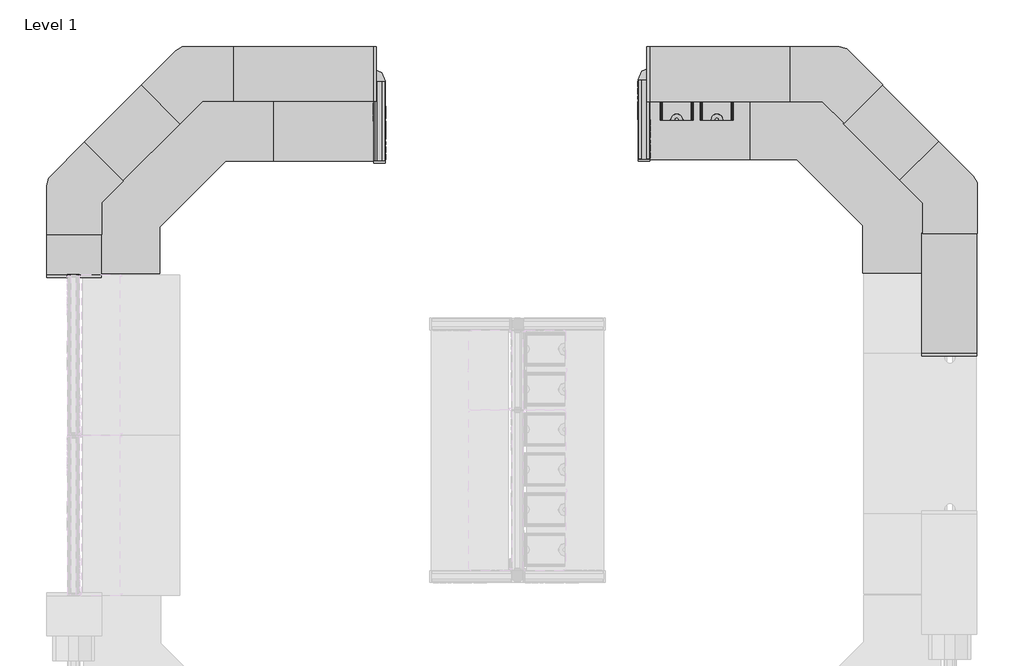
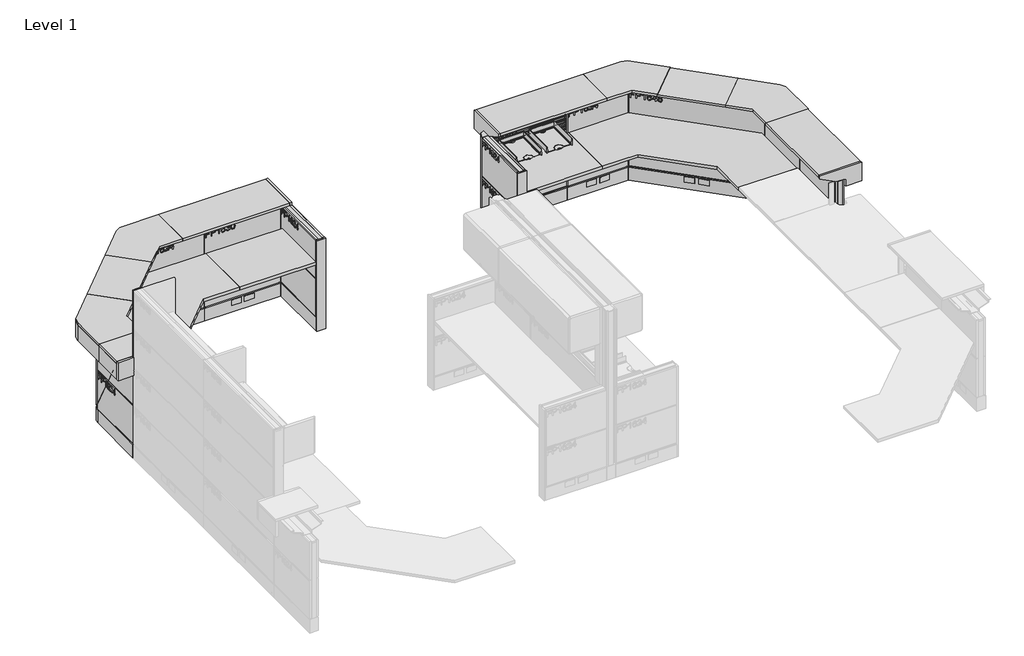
# One storey, part 3 of 3: 115 furniture elements.
"""IFC4 building model written with IfcOpenShell, lengths in millimetres."""

from ifc_helpers import new_model, si_unit, origin, place, context, project, spatial, transform, mapped, element, save
from components import furniture_050a35a8, furniture_f6e7f18d, furniture_7324295f, furniture_a86162da, furniture_dabdfb29, furniture_df6beef7, furniture_9c7ec0bd, furniture_8828cb60, furniture_d029c18f, furniture_0245ad47, furniture_adfb5ce8, furniture_f9b3eec1, furniture_44389360, furniture_d1243616, furniture_9dcc6860, furniture_a09f8145, furniture_81fe7897, furniture_8bbf410e, furniture_e496f4a3, furniture_2b4b025d, furniture_bb47e685, furniture_82e04d0f, furniture_bfd90adf, furniture_135_deg_68790faa, furniture_135_deg_corner_e0015eda, furniture_24d_left_781ecdd2, furniture_24d_right_b8f5cfed, furniture_30d_right_d35b987e, furniture_68980961, furniture_c74ffdfc, end_cap_54c5994d, lam_24d_30w_89995873, left_d4cbb337, left_ebece1d7

model = new_model("IFC4")

# Units and contexts
model_context = context("Model", 3, world=origin())
ifc_project = project(units=[si_unit("LENGTHUNIT", "METRE", prefix="MILLI")], contexts=[model_context])

# Site, building, storey
site = spatial("IfcSite", under=ifc_project)
building = spatial("IfcBuilding", under=site)
storey = spatial("IfcBuildingStorey", under=building, Name="Level 1", Elevation=0.0)

# Furniture
placement = place(None, origin())
furniture_shape = furniture_050a35a8(model_context)
element("IfcFurniture", 1, ObjectType="HermanMiller_Ethospace_EWS73_F_Sq-Edge135WorkSurfaceDouble_FrameAttached : Ptd 24D 48W", at=placement, inside=storey, context=model_context, shape_type="MappedRepresentation", body=[
    mapped(furniture_shape, transform((889.1319408, 5217.8901948, 0.0), x_axis=(0.0, 1.0, 0.0), y_axis=(-1.0, 0.0, 0.0), z_axis=(0.0, 0.0, 1.0))),
])
element("IfcFurniture", 2, ObjectType="HermanMiller_Ethospace_EWS73_F_Sq-Edge135WorkSurfaceDouble_FrameAttached : Ptd 24D 48W", at=placement, inside=storey, context=model_context, shape_type="MappedRepresentation", body=[
    mapped(furniture_shape, transform((6392.2896748, 5008.5651792, 0.0), x_axis=(1.0, 0.0, 0.0), y_axis=(0.0, 1.0, 0.0), z_axis=(0.0, 0.0, 1.0))),
])
furniture_2_shape = furniture_f6e7f18d(model_context)
element("IfcFurniture", 3, ObjectType="HermanMiller_Ethospace_E2830_SqEdgeCounterTop : 7-1/2\"H x 16-3/8\"D x 42\"W", at=placement, inside=storey, context=model_context, shape_type="MappedRepresentation", body=[
    mapped(furniture_2_shape, transform((5114.96056, 5685.13976, 0.0), x_axis=(1.0, 0.0, 0.0), y_axis=(0.0, 1.0, 0.0), z_axis=(0.0, 0.0, 1.0))),
])
element("IfcFurniture", 4, ObjectType="HermanMiller_Ethospace_E2830_SqEdgeCounterTop : 7-1/2\"H x 16-3/8\"D x 42\"W", at=placement, inside=storey, context=model_context, shape_type="MappedRepresentation", body=[
    mapped(furniture_2_shape, transform((1951.13402, 5687.76358, 0.0), x_axis=(1.0, 0.0, 0.0), y_axis=(0.0, 1.0, 0.0), z_axis=(0.0, 0.0, 1.0))),
])
furniture_3_shape = furniture_7324295f(model_context)
element("IfcFurniture", 5, ObjectType="HermanMiller_Ethospace_E2830_SqEdgeCounterTop : 7-1/2\"H x 16-3/8\"D x 36\"W", at=placement, inside=storey, context=model_context, shape_type="MappedRepresentation", body=[
    mapped(furniture_3_shape, transform((6854.95708, 4021.3534, 0.0), x_axis=(0.0, -1.0, 0.0), y_axis=(1.0, 0.0, 0.0), z_axis=(0.0, 0.0, 1.0))),
])
furniture_4_shape = furniture_a86162da(model_context)
element("IfcFurniture", 6, ObjectType="HermanMiller_Ethospace_E2830_SqEdgeCounterTop : 7-1/2\"H x 16-3/8\"D x 24\"W", at=placement, inside=storey, context=model_context, shape_type="MappedRepresentation", body=[
    mapped(furniture_4_shape, transform((6412.2772944, 5242.4685406, 0.0), x_axis=(0.7071067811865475, -0.7071067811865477, 0.0), y_axis=(0.7071067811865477, 0.7071067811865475, 0.0), z_axis=(0.0, 0.0, 1.0))),
])
element("IfcFurniture", 7, ObjectType="HermanMiller_Ethospace_E2830_SqEdgeCounterTop : 7-1/2\"H x 16-3/8\"D x 24\"W", at=placement, inside=storey, context=model_context, shape_type="MappedRepresentation", body=[
    mapped(furniture_4_shape, transform((650.0266594, 5238.5001144, 0.0), x_axis=(0.7071067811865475, 0.7071067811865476, 0.0), y_axis=(-0.7071067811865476, 0.7071067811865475, 0.0), z_axis=(0.0, 0.0, 1.0))),
])
furniture_5_shape = furniture_dabdfb29(model_context)
element("IfcFurniture", 8, ObjectType="HermanMiller_Ethospace_E2830_SqEdgeCounterTop : 7-1/2\"H x 16-3/8\"D x 12\"W", at=placement, inside=storey, context=model_context, shape_type="MappedRepresentation", body=[
    mapped(furniture_5_shape, transform((209.32648, 4313.97664, 0.0), x_axis=(0.0, 1.0, 0.0), y_axis=(-1.0, 0.0, 0.0), z_axis=(0.0, 0.0, 1.0))),
])
furniture_6_shape = furniture_df6beef7(model_context)
element("IfcFurniture", 9, ObjectType="HermanMiller_Ethospace_E2827_CounterTopSupport : 48\"W W/Light", at=placement, inside=storey, context=model_context, shape_type="MappedRepresentation", body=[
    mapped(furniture_6_shape, transform((6406.0698013, 5236.8563536, 0.0), x_axis=(0.7071067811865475, -0.7071067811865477, 0.0), y_axis=(0.7071067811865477, 0.7071067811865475, 0.0), z_axis=(0.0, 0.0, 1.0))),
])
element("IfcFurniture", 10, ObjectType="HermanMiller_Ethospace_E2827_CounterTopSupport : 48\"W W/Light", at=placement, inside=storey, context=model_context, shape_type="MappedRepresentation", body=[
    mapped(furniture_6_shape, transform((659.4310664, 5224.0833413, 0.0), x_axis=(0.7071067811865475, 0.7071067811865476, 0.0), y_axis=(-0.7071067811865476, 0.7071067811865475, 0.0), z_axis=(0.0, 0.0, 1.0))),
])
furniture_7_shape = furniture_9c7ec0bd(model_context)
element("IfcFurniture", 11, ObjectType="HermanMiller_Ethospace_E2827_CounterTopSupport : 30\"W W/Light", at=placement, inside=storey, context=model_context, shape_type="MappedRepresentation", body=[
    mapped(furniture_7_shape, transform((4962.56056, 5677.20226, 0.0), x_axis=(1.0, 0.0, 0.0), y_axis=(0.0, 1.0, 0.0), z_axis=(0.0, 0.0, 1.0))),
])
element("IfcFurniture", 12, ObjectType="HermanMiller_Ethospace_E2827_CounterTopSupport : 30\"W W/Light", at=placement, inside=storey, context=model_context, shape_type="MappedRepresentation", body=[
    mapped(furniture_7_shape, transform((2103.53402, 5665.03058, 0.0), x_axis=(1.0, 0.0, 0.0), y_axis=(0.0, 1.0, 0.0), z_axis=(0.0, 0.0, 1.0))),
])
furniture_8_shape = furniture_8828cb60(model_context)
element("IfcFurniture", 13, ObjectType="HermanMiller_Ethospace_E2827_CounterTopSupport : 24\"W W/Light", at=placement, inside=storey, context=model_context, shape_type="MappedRepresentation", body=[
    mapped(furniture_8_shape, transform((6847.0145, 3868.82132, 0.0), x_axis=(0.0, -1.0, 0.0), y_axis=(1.0, 0.0, 0.0), z_axis=(0.0, 0.0, 1.0))),
])
element("IfcFurniture", 14, ObjectType="HermanMiller_Ethospace_E2827_CounterTopSupport : 24\"W W/Light", at=placement, inside=storey, context=model_context, shape_type="MappedRepresentation", body=[
    mapped(furniture_8_shape, transform((6847.01958, 4478.5534, 0.0), x_axis=(0.0, -1.0, 0.0), y_axis=(1.0, 0.0, 0.0), z_axis=(0.0, 0.0, 1.0))),
])
element("IfcFurniture", 15, ObjectType="HermanMiller_Ethospace_E2827_CounterTopSupport : 24\"W W/Light", at=placement, inside=storey, context=model_context, shape_type="MappedRepresentation", body=[
    mapped(furniture_8_shape, transform((5648.36056, 5677.2175, 0.0), x_axis=(1.0, 0.0, 0.0), y_axis=(0.0, 1.0, 0.0), z_axis=(0.0, 0.0, 1.0))),
])
element("IfcFurniture", 16, ObjectType="HermanMiller_Ethospace_E2827_CounterTopSupport : 24\"W W/Light", at=placement, inside=storey, context=model_context, shape_type="MappedRepresentation", body=[
    mapped(furniture_8_shape, transform((1417.73402, 5665.03058, 0.0), x_axis=(1.0, 0.0, 0.0), y_axis=(0.0, 1.0, 0.0), z_axis=(0.0, 0.0, 1.0))),
])
element("IfcFurniture", 17, ObjectType="HermanMiller_Ethospace_E2827_CounterTopSupport : 24\"W W/Light", at=placement, inside=storey, context=model_context, shape_type="MappedRepresentation", body=[
    mapped(furniture_8_shape, transform((219.08008, 4465.77974, 0.0), x_axis=(0.0, 1.0, 0.0), y_axis=(-1.0, 0.0, 0.0), z_axis=(0.0, 0.0, 1.0))),
])
furniture_9_shape = furniture_d029c18f(model_context)
element("IfcFurniture", 18, ObjectType="HermanMiller_Ethospace_E1425_RailTile : 08\"H x 30\"W", at=placement, inside=storey, context=model_context, shape_type="MappedRepresentation", body=[
    mapped(furniture_9_shape, transform((4962.56056, 5667.68234, 0.0), x_axis=(1.0, 0.0, 0.0), y_axis=(0.0, 1.0, 0.0), z_axis=(0.0, 0.0, 1.0))),
])
furniture_10_shape = furniture_0245ad47(model_context)
element("IfcFurniture", 19, ObjectType="HermanMiller_Ethospace_E1420_FaceTile : Ptd 16\"H x 48\"W", at=placement, inside=storey, context=model_context, shape_type="MappedRepresentation", body=[
    mapped(furniture_10_shape, transform((6438.0944143, 5268.285362, 0.0), x_axis=(-0.7071067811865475, 0.7071067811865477, 0.0), y_axis=(-0.7071067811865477, -0.7071067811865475, 0.0), z_axis=(0.0, 0.0, 1.0))),
])
element("IfcFurniture", 20, ObjectType="HermanMiller_Ethospace_E1420_FaceTile : Ptd 16\"H x 48\"W", at=placement, inside=storey, context=model_context, shape_type="MappedRepresentation", body=[
    mapped(furniture_10_shape, transform((6394.8771257, 5225.069318, 0.0), x_axis=(0.7071067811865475, -0.7071067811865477, 0.0), y_axis=(0.7071067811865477, 0.7071067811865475, 0.0), z_axis=(0.0, 0.0, 1.0))),
])
element("IfcFurniture", 21, ObjectType="HermanMiller_Ethospace_E1420_FaceTile : Ptd 16\"H x 48\"W", at=placement, inside=storey, context=model_context, shape_type="MappedRepresentation", body=[
    mapped(furniture_10_shape, transform((627.999518, 5256.1104943, 0.0), x_axis=(-0.7071067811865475, -0.7071067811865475, 0.0), y_axis=(0.7071067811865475, -0.7071067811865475, 0.0), z_axis=(0.0, 0.0, 1.0))),
])
element("IfcFurniture", 22, ObjectType="HermanMiller_Ethospace_E1420_FaceTile : Ptd 16\"H x 48\"W", at=placement, inside=storey, context=model_context, shape_type="MappedRepresentation", body=[
    mapped(furniture_10_shape, transform((671.218102, 5212.8932057, 0.0), x_axis=(0.7071067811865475, 0.7071067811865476, 0.0), y_axis=(-0.7071067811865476, 0.7071067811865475, 0.0), z_axis=(0.0, 0.0, 1.0))),
])
furniture_11_shape = furniture_adfb5ce8(model_context)
element("IfcFurniture", 23, ObjectType="HermanMiller_Ethospace_E1420_FaceTile : Ptd 16\"H x 48\"W", at=placement, inside=storey, context=model_context, shape_type="MappedRepresentation", body=[
    mapped(furniture_11_shape, transform((6394.8771257, 5225.069318, 0.0), x_axis=(0.7071067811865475, -0.7071067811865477, 0.0), y_axis=(0.7071067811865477, 0.7071067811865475, 0.0), z_axis=(0.0, 0.0, 1.0))),
])
element("IfcFurniture", 24, ObjectType="HermanMiller_Ethospace_E1420_FaceTile : Ptd 16\"H x 48\"W", at=placement, inside=storey, context=model_context, shape_type="MappedRepresentation", body=[
    mapped(furniture_11_shape, transform((6438.0944143, 5268.285362, 0.0), x_axis=(-0.7071067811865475, 0.7071067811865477, 0.0), y_axis=(-0.7071067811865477, -0.7071067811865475, 0.0), z_axis=(0.0, 0.0, 1.0))),
])
element("IfcFurniture", 25, ObjectType="HermanMiller_Ethospace_E1420_FaceTile : Ptd 16\"H x 48\"W", at=placement, inside=storey, context=model_context, shape_type="MappedRepresentation", body=[
    mapped(furniture_11_shape, transform((671.218102, 5212.8932057, 0.0), x_axis=(0.7071067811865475, 0.7071067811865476, 0.0), y_axis=(-0.7071067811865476, 0.7071067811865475, 0.0), z_axis=(0.0, 0.0, 1.0))),
])
element("IfcFurniture", 26, ObjectType="HermanMiller_Ethospace_E1420_FaceTile : Ptd 16\"H x 48\"W", at=placement, inside=storey, context=model_context, shape_type="MappedRepresentation", body=[
    mapped(furniture_11_shape, transform((627.999518, 5256.1104943, 0.0), x_axis=(-0.7071067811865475, -0.7071067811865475, 0.0), y_axis=(0.7071067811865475, -0.7071067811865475, 0.0), z_axis=(0.0, 0.0, 1.0))),
])
furniture_12_shape = furniture_f9b3eec1(model_context)
element("IfcFurniture", 27, ObjectType="HermanMiller_Ethospace_E1420_FaceTile : Ptd 16\"H x 30\"W", at=placement, inside=storey, context=model_context, shape_type="MappedRepresentation", body=[
    mapped(furniture_12_shape, transform((4962.56056, 5721.6573461, 0.0), x_axis=(-1.0, 0.0, 0.0), y_axis=(0.0, -1.0, 0.0), z_axis=(0.0, 0.0, 1.0))),
])
element("IfcFurniture", 28, ObjectType="HermanMiller_Ethospace_E1420_FaceTile : Ptd 16\"H x 30\"W", at=placement, inside=storey, context=model_context, shape_type="MappedRepresentation", body=[
    mapped(furniture_12_shape, transform((4962.56056, 5658.1573339, 0.0), x_axis=(1.0, 0.0, 0.0), y_axis=(0.0, 1.0, 0.0), z_axis=(0.0, 0.0, 1.0))),
])
element("IfcFurniture", 29, ObjectType="HermanMiller_Ethospace_E1420_FaceTile : Ptd 16\"H x 30\"W", at=placement, inside=storey, context=model_context, shape_type="MappedRepresentation", body=[
    mapped(furniture_12_shape, transform((2103.53402, 5709.4805861, 0.0), x_axis=(-1.0, 0.0, 0.0), y_axis=(0.0, -1.0, 0.0), z_axis=(0.0, 0.0, 1.0))),
])
element("IfcFurniture", 30, ObjectType="HermanMiller_Ethospace_E1420_FaceTile : Ptd 16\"H x 30\"W", at=placement, inside=storey, context=model_context, shape_type="MappedRepresentation", body=[
    mapped(furniture_12_shape, transform((2103.53402, 5645.9805739, 0.0), x_axis=(1.0, 0.0, 0.0), y_axis=(0.0, 1.0, 0.0), z_axis=(0.0, 0.0, 1.0))),
])
furniture_13_shape = furniture_44389360(model_context)
element("IfcFurniture", 31, ObjectType="HermanMiller_Ethospace_E1420_FaceTile : Ptd 16\"H x 30\"W", at=placement, inside=storey, context=model_context, shape_type="MappedRepresentation", body=[
    mapped(furniture_13_shape, transform((4962.56056, 5721.6573461, 0.0), x_axis=(-1.0, 0.0, 0.0), y_axis=(0.0, -1.0, 0.0), z_axis=(0.0, 0.0, 1.0))),
])
element("IfcFurniture", 32, ObjectType="HermanMiller_Ethospace_E1420_FaceTile : Ptd 16\"H x 30\"W", at=placement, inside=storey, context=model_context, shape_type="MappedRepresentation", body=[
    mapped(furniture_13_shape, transform((2103.53402, 5645.9805739, 0.0), x_axis=(1.0, 0.0, 0.0), y_axis=(0.0, 1.0, 0.0), z_axis=(0.0, 0.0, 1.0))),
])
element("IfcFurniture", 33, ObjectType="HermanMiller_Ethospace_E1420_FaceTile : Ptd 16\"H x 30\"W", at=placement, inside=storey, context=model_context, shape_type="MappedRepresentation", body=[
    mapped(furniture_13_shape, transform((2103.53402, 5709.4805861, 0.0), x_axis=(-1.0, 0.0, 0.0), y_axis=(0.0, -1.0, 0.0), z_axis=(0.0, 0.0, 1.0))),
])
furniture_14_shape = furniture_d1243616(model_context)
element("IfcFurniture", 34, ObjectType="HermanMiller_Ethospace_E1420_FaceTile : Ptd 16\"H x 24\"W", at=placement, inside=storey, context=model_context, shape_type="MappedRepresentation", body=[
    mapped(furniture_14_shape, transform((6891.4670461, 3868.82132, 0.0), x_axis=(0.0, 1.0, 0.0), y_axis=(-1.0, 0.0, 0.0), z_axis=(0.0, 0.0, 1.0))),
])
element("IfcFurniture", 35, ObjectType="HermanMiller_Ethospace_E1420_FaceTile : Ptd 16\"H x 24\"W", at=placement, inside=storey, context=model_context, shape_type="MappedRepresentation", body=[
    mapped(furniture_14_shape, transform((6827.9670339, 3868.9534, 0.0), x_axis=(0.0, -1.0, 0.0), y_axis=(1.0, 0.0, 0.0), z_axis=(0.0, 0.0, 1.0))),
])
element("IfcFurniture", 36, ObjectType="HermanMiller_Ethospace_E1420_FaceTile : Ptd 16\"H x 24\"W", at=placement, inside=storey, context=model_context, shape_type="MappedRepresentation", body=[
    mapped(furniture_14_shape, transform((4506.1555739, 5340.65734, 0.0), x_axis=(0.0, -1.0, 0.0), y_axis=(1.0, 0.0, 0.0), z_axis=(0.0, 0.0, 1.0))),
])
element("IfcFurniture", 37, ObjectType="HermanMiller_Ethospace_E1420_FaceTile : Ptd 16\"H x 24\"W", at=placement, inside=storey, context=model_context, shape_type="MappedRepresentation", body=[
    mapped(furniture_14_shape, transform((4568.8605661, 5340.65734, 0.0), x_axis=(0.0, 1.0, 0.0), y_axis=(-1.0, 0.0, 0.0), z_axis=(0.0, 0.0, 1.0))),
])
element("IfcFurniture", 38, ObjectType="HermanMiller_Ethospace_E1420_FaceTile : Ptd 16\"H x 24\"W", at=placement, inside=storey, context=model_context, shape_type="MappedRepresentation", body=[
    mapped(furniture_14_shape, transform((6891.4670461, 4478.5534, 0.0), x_axis=(0.0, 1.0, 0.0), y_axis=(-1.0, 0.0, 0.0), z_axis=(0.0, 0.0, 1.0))),
])
element("IfcFurniture", 39, ObjectType="HermanMiller_Ethospace_E1420_FaceTile : Ptd 16\"H x 24\"W", at=placement, inside=storey, context=model_context, shape_type="MappedRepresentation", body=[
    mapped(furniture_14_shape, transform((6827.9670339, 4478.5534, 0.0), x_axis=(0.0, -1.0, 0.0), y_axis=(1.0, 0.0, 0.0), z_axis=(0.0, 0.0, 1.0))),
])
element("IfcFurniture", 40, ObjectType="HermanMiller_Ethospace_E1420_FaceTile : Ptd 16\"H x 24\"W", at=placement, inside=storey, context=model_context, shape_type="MappedRepresentation", body=[
    mapped(furniture_14_shape, transform((5648.36056, 5721.6573461, 0.0), x_axis=(-1.0, 0.0, 0.0), y_axis=(0.0, -1.0, 0.0), z_axis=(0.0, 0.0, 1.0))),
])
element("IfcFurniture", 41, ObjectType="HermanMiller_Ethospace_E1420_FaceTile : Ptd 16\"H x 24\"W", at=placement, inside=storey, context=model_context, shape_type="MappedRepresentation", body=[
    mapped(furniture_14_shape, transform((5648.36056, 5658.1573339, 0.0), x_axis=(1.0, 0.0, 0.0), y_axis=(0.0, 1.0, 0.0), z_axis=(0.0, 0.0, 1.0))),
])
element("IfcFurniture", 42, ObjectType="HermanMiller_Ethospace_E1420_FaceTile : Ptd 16\"H x 24\"W", at=placement, inside=storey, context=model_context, shape_type="MappedRepresentation", body=[
    mapped(furniture_14_shape, transform((238.1300861, 4466.37664, 0.0), x_axis=(0.0, 1.0, 0.0), y_axis=(-1.0, 0.0, 0.0), z_axis=(0.0, 0.0, 1.0))),
])
element("IfcFurniture", 43, ObjectType="HermanMiller_Ethospace_E1420_FaceTile : Ptd 16\"H x 24\"W", at=placement, inside=storey, context=model_context, shape_type="MappedRepresentation", body=[
    mapped(furniture_14_shape, transform((2498.0290339, 5328.48058, 0.0), x_axis=(0.0, -1.0, 0.0), y_axis=(1.0, 0.0, 0.0), z_axis=(0.0, 0.0, 1.0))),
])
element("IfcFurniture", 44, ObjectType="HermanMiller_Ethospace_E1420_FaceTile : Ptd 16\"H x 24\"W", at=placement, inside=storey, context=model_context, shape_type="MappedRepresentation", body=[
    mapped(furniture_14_shape, transform((2560.7340261, 5328.48058, 0.0), x_axis=(0.0, 1.0, 0.0), y_axis=(-1.0, 0.0, 0.0), z_axis=(0.0, 0.0, 1.0))),
])
element("IfcFurniture", 45, ObjectType="HermanMiller_Ethospace_E1420_FaceTile : Ptd 16\"H x 24\"W", at=placement, inside=storey, context=model_context, shape_type="MappedRepresentation", body=[
    mapped(furniture_14_shape, transform((1417.73402, 5709.4805861, 0.0), x_axis=(-1.0, 0.0, 0.0), y_axis=(0.0, -1.0, 0.0), z_axis=(0.0, 0.0, 1.0))),
])
element("IfcFurniture", 46, ObjectType="HermanMiller_Ethospace_E1420_FaceTile : Ptd 16\"H x 24\"W", at=placement, inside=storey, context=model_context, shape_type="MappedRepresentation", body=[
    mapped(furniture_14_shape, transform((1417.73402, 5645.9805739, 0.0), x_axis=(1.0, 0.0, 0.0), y_axis=(0.0, 1.0, 0.0), z_axis=(0.0, 0.0, 1.0))),
])
element("IfcFurniture", 47, ObjectType="HermanMiller_Ethospace_E1420_FaceTile : Ptd 16\"H x 24\"W", at=placement, inside=storey, context=model_context, shape_type="MappedRepresentation", body=[
    mapped(furniture_14_shape, transform((174.6300739, 4466.37664, 0.0), x_axis=(0.0, -1.0, 0.0), y_axis=(1.0, 0.0, 0.0), z_axis=(0.0, 0.0, 1.0))),
])
element("IfcFurniture", 48, ObjectType="HermanMiller_Ethospace_E1420_FaceTile : Ptd 16\"H x 24\"W", at=placement, inside=storey, context=model_context, shape_type="MappedRepresentation", body=[
    mapped(furniture_14_shape, transform((238.1300861, 4466.37664, 0.0), x_axis=(0.0, 1.0, 0.0), y_axis=(-1.0, 0.0, 0.0), z_axis=(0.0, 0.0, 1.0))),
])
furniture_15_shape = furniture_9dcc6860(model_context)
element("IfcFurniture", 49, ObjectType="HermanMiller_Ethospace_E1420_FaceTile : Ptd 16\"H x 24\"W", at=placement, inside=storey, context=model_context, shape_type="MappedRepresentation", body=[
    mapped(furniture_15_shape, transform((6891.4670461, 3868.82132, 0.0), x_axis=(0.0, 1.0, 0.0), y_axis=(-1.0, 0.0, 0.0), z_axis=(0.0, 0.0, 1.0))),
])
element("IfcFurniture", 50, ObjectType="HermanMiller_Ethospace_E1420_FaceTile : Ptd 16\"H x 24\"W", at=placement, inside=storey, context=model_context, shape_type="MappedRepresentation", body=[
    mapped(furniture_15_shape, transform((6827.9670339, 3868.9534, 0.0), x_axis=(0.0, -1.0, 0.0), y_axis=(1.0, 0.0, 0.0), z_axis=(0.0, 0.0, 1.0))),
])
element("IfcFurniture", 51, ObjectType="HermanMiller_Ethospace_E1420_FaceTile : Ptd 16\"H x 24\"W", at=placement, inside=storey, context=model_context, shape_type="MappedRepresentation", body=[
    mapped(furniture_15_shape, transform((5648.36056, 5658.1573339, 0.0), x_axis=(1.0, 0.0, 0.0), y_axis=(0.0, 1.0, 0.0), z_axis=(0.0, 0.0, 1.0))),
])
element("IfcFurniture", 52, ObjectType="HermanMiller_Ethospace_E1420_FaceTile : Ptd 16\"H x 24\"W", at=placement, inside=storey, context=model_context, shape_type="MappedRepresentation", body=[
    mapped(furniture_15_shape, transform((4506.1555739, 5340.65734, 0.0), x_axis=(0.0, -1.0, 0.0), y_axis=(1.0, 0.0, 0.0), z_axis=(0.0, 0.0, 1.0))),
])
element("IfcFurniture", 53, ObjectType="HermanMiller_Ethospace_E1420_FaceTile : Ptd 16\"H x 24\"W", at=placement, inside=storey, context=model_context, shape_type="MappedRepresentation", body=[
    mapped(furniture_15_shape, transform((4568.8605661, 5340.65734, 0.0), x_axis=(0.0, 1.0, 0.0), y_axis=(-1.0, 0.0, 0.0), z_axis=(0.0, 0.0, 1.0))),
])
element("IfcFurniture", 54, ObjectType="HermanMiller_Ethospace_E1420_FaceTile : Ptd 16\"H x 24\"W", at=placement, inside=storey, context=model_context, shape_type="MappedRepresentation", body=[
    mapped(furniture_15_shape, transform((6827.9670339, 4478.5534, 0.0), x_axis=(0.0, -1.0, 0.0), y_axis=(1.0, 0.0, 0.0), z_axis=(0.0, 0.0, 1.0))),
])
element("IfcFurniture", 55, ObjectType="HermanMiller_Ethospace_E1420_FaceTile : Ptd 16\"H x 24\"W", at=placement, inside=storey, context=model_context, shape_type="MappedRepresentation", body=[
    mapped(furniture_15_shape, transform((6891.4670461, 4478.5534, 0.0), x_axis=(0.0, 1.0, 0.0), y_axis=(-1.0, 0.0, 0.0), z_axis=(0.0, 0.0, 1.0))),
])
element("IfcFurniture", 56, ObjectType="HermanMiller_Ethospace_E1420_FaceTile : Ptd 16\"H x 24\"W", at=placement, inside=storey, context=model_context, shape_type="MappedRepresentation", body=[
    mapped(furniture_15_shape, transform((5648.36056, 5721.6573461, 0.0), x_axis=(-1.0, 0.0, 0.0), y_axis=(0.0, -1.0, 0.0), z_axis=(0.0, 0.0, 1.0))),
])
element("IfcFurniture", 57, ObjectType="HermanMiller_Ethospace_E1420_FaceTile : Ptd 16\"H x 24\"W", at=placement, inside=storey, context=model_context, shape_type="MappedRepresentation", body=[
    mapped(furniture_15_shape, transform((2498.0290339, 5328.48058, 0.0), x_axis=(0.0, -1.0, 0.0), y_axis=(1.0, 0.0, 0.0), z_axis=(0.0, 0.0, 1.0))),
])
element("IfcFurniture", 58, ObjectType="HermanMiller_Ethospace_E1420_FaceTile : Ptd 16\"H x 24\"W", at=placement, inside=storey, context=model_context, shape_type="MappedRepresentation", body=[
    mapped(furniture_15_shape, transform((2560.7340261, 5328.48058, 0.0), x_axis=(0.0, 1.0, 0.0), y_axis=(-1.0, 0.0, 0.0), z_axis=(0.0, 0.0, 1.0))),
])
element("IfcFurniture", 59, ObjectType="HermanMiller_Ethospace_E1420_FaceTile : Ptd 16\"H x 24\"W", at=placement, inside=storey, context=model_context, shape_type="MappedRepresentation", body=[
    mapped(furniture_15_shape, transform((1417.73402, 5645.9805739, 0.0), x_axis=(1.0, 0.0, 0.0), y_axis=(0.0, 1.0, 0.0), z_axis=(0.0, 0.0, 1.0))),
])
element("IfcFurniture", 60, ObjectType="HermanMiller_Ethospace_E1420_FaceTile : Ptd 16\"H x 24\"W", at=placement, inside=storey, context=model_context, shape_type="MappedRepresentation", body=[
    mapped(furniture_15_shape, transform((1417.73402, 5709.4805861, 0.0), x_axis=(-1.0, 0.0, 0.0), y_axis=(0.0, -1.0, 0.0), z_axis=(0.0, 0.0, 1.0))),
])
element("IfcFurniture", 61, ObjectType="HermanMiller_Ethospace_E1420_FaceTile : Ptd 16\"H x 24\"W", at=placement, inside=storey, context=model_context, shape_type="MappedRepresentation", body=[
    mapped(furniture_15_shape, transform((174.6300739, 4466.37664, 0.0), x_axis=(0.0, -1.0, 0.0), y_axis=(1.0, 0.0, 0.0), z_axis=(0.0, 0.0, 1.0))),
])
furniture_16_shape = furniture_a09f8145(model_context)
element("IfcFurniture", 62, ObjectType="HermanMiller_Ethospace_E1420_FaceTile : Ptd 08\"H x 30\"W", at=placement, inside=storey, context=model_context, shape_type="MappedRepresentation", body=[
    mapped(furniture_16_shape, transform((4962.56056, 5658.0150939, 0.0), x_axis=(1.0, 0.0, 0.0), y_axis=(0.0, 1.0, 0.0), z_axis=(0.0, 0.0, 1.0))),
])
furniture_17_shape = furniture_81fe7897(model_context)
element("IfcFurniture", 63, ObjectType="HermanMiller_Ethospace_E1251_FinishedEndChangeOfHeight : Std Ptd 28\"H", at=placement, inside=storey, context=model_context, shape_type="MappedRepresentation", body=[
    mapped(furniture_17_shape, transform((198.7677744, 4154.2472418, 0.0), x_axis=(0.0, 1.0, 0.0), y_axis=(-1.0, 0.0, 0.0), z_axis=(0.0, 0.0, 1.0))),
])
furniture_18_shape = furniture_8bbf410e(model_context)
element("IfcFurniture", 64, ObjectType="HermanMiller_Ethospace_E1250_FinishedEnd : Std Ptd 38\"H", at=placement, inside=storey, context=model_context, shape_type="MappedRepresentation", body=[
    mapped(furniture_18_shape, transform((4543.7017856, 5030.4867382, 0.0), x_axis=(0.0, -1.0, 0.0), y_axis=(1.0, 0.0, 0.0), z_axis=(0.0, 0.0, 1.0))),
])
element("IfcFurniture", 65, ObjectType="HermanMiller_Ethospace_E1250_FinishedEnd : Std Ptd 38\"H", at=placement, inside=storey, context=model_context, shape_type="MappedRepresentation", body=[
    mapped(furniture_18_shape, transform((2534.7802256, 5018.3099782, 0.0), x_axis=(0.0, -1.0, 0.0), y_axis=(1.0, 0.0, 0.0), z_axis=(0.0, 0.0, 1.0))),
])
furniture_19_shape = furniture_e496f4a3(model_context)
element("IfcFurniture", 66, ObjectType="HermanMiller_Ethospace_E1220_90DegreeConnector : Vnyl 38\"H 2-Way Rds-N", at=placement, inside=storey, context=model_context, shape_type="MappedRepresentation", body=[
    mapped(furniture_19_shape, transform((4545.2757701, 5664.5073381, 0.0), x_axis=(0.0, 1.0, 0.0), y_axis=(-1.0, 0.0, 0.0), z_axis=(0.0, 0.0, 1.0))),
])
element("IfcFurniture", 67, ObjectType="HermanMiller_Ethospace_E1220_90DegreeConnector : Vnyl 38\"H 2-Way Rds-N", at=placement, inside=storey, context=model_context, shape_type="MappedRepresentation", body=[
    mapped(furniture_19_shape, transform((2503.5849706, 5669.5653699, 0.0), x_axis=(1.0, 0.0, 0.0), y_axis=(0.0, 1.0, 0.0), z_axis=(0.0, 0.0, 1.0))),
])
furniture_20_shape = furniture_2b4b025d(model_context)
element("IfcFurniture", 68, ObjectType="HermanMiller_Ethospace_E1109_Frame : 38\"H x 48\"W-H", at=placement, inside=storey, context=model_context, shape_type="MappedRepresentation", body=[
    mapped(furniture_20_shape, transform((6415.3586674, 5246.1452198, 0.0), x_axis=(0.7071067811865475, -0.7071067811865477, 0.0), y_axis=(0.7071067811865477, 0.7071067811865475, 0.0), z_axis=(0.0, 0.0, 1.0))),
])
element("IfcFurniture", 69, ObjectType="HermanMiller_Ethospace_E1109_Frame : 38\"H x 48\"W-H", at=placement, inside=storey, context=model_context, shape_type="MappedRepresentation", body=[
    mapped(furniture_20_shape, transform((650.4508102, 5233.6604974, 0.0), x_axis=(0.7071067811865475, 0.7071067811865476, 0.0), y_axis=(-0.7071067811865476, 0.7071067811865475, 0.0), z_axis=(0.0, 0.0, 1.0))),
])
furniture_21_shape = furniture_bb47e685(model_context)
element("IfcFurniture", 70, ObjectType="HermanMiller_Ethospace_E1109_Frame : 38\"H x 30\"W-H", at=placement, inside=storey, context=model_context, shape_type="MappedRepresentation", body=[
    mapped(furniture_21_shape, transform((4962.56056, 5689.90226, 0.0), x_axis=(1.0, 0.0, 0.0), y_axis=(0.0, 1.0, 0.0), z_axis=(0.0, 0.0, 1.0))),
])
element("IfcFurniture", 71, ObjectType="HermanMiller_Ethospace_E1109_Frame : 38\"H x 30\"W-H", at=placement, inside=storey, context=model_context, shape_type="MappedRepresentation", body=[
    mapped(furniture_21_shape, transform((2103.53402, 5677.73058, 0.0), x_axis=(1.0, 0.0, 0.0), y_axis=(0.0, 1.0, 0.0), z_axis=(0.0, 0.0, 1.0))),
])
furniture_22_shape = furniture_82e04d0f(model_context)
element("IfcFurniture", 72, ObjectType="HermanMiller_Ethospace_E1109_Frame : 38\"H x 24\"W-H", at=placement, inside=storey, context=model_context, shape_type="MappedRepresentation", body=[
    mapped(furniture_22_shape, transform((6859.71704, 3868.82132, 0.0), x_axis=(0.0, -1.0, 0.0), y_axis=(1.0, 0.0, 0.0), z_axis=(0.0, 0.0, 1.0))),
])
element("IfcFurniture", 73, ObjectType="HermanMiller_Ethospace_E1109_Frame : 38\"H x 24\"W-H", at=placement, inside=storey, context=model_context, shape_type="MappedRepresentation", body=[
    mapped(furniture_22_shape, transform((4537.11056, 5340.65734, 0.0), x_axis=(0.0, 1.0, 0.0), y_axis=(-1.0, 0.0, 0.0), z_axis=(0.0, 0.0, 1.0))),
])
element("IfcFurniture", 74, ObjectType="HermanMiller_Ethospace_E1109_Frame : 38\"H x 24\"W-H", at=placement, inside=storey, context=model_context, shape_type="MappedRepresentation", body=[
    mapped(furniture_22_shape, transform((6859.7145, 4478.5534, 0.0), x_axis=(0.0, -1.0, 0.0), y_axis=(1.0, 0.0, 0.0), z_axis=(0.0, 0.0, 1.0))),
])
element("IfcFurniture", 75, ObjectType="HermanMiller_Ethospace_E1109_Frame : 38\"H x 24\"W-H", at=placement, inside=storey, context=model_context, shape_type="MappedRepresentation", body=[
    mapped(furniture_22_shape, transform((5648.36056, 5689.9175, 0.0), x_axis=(1.0, 0.0, 0.0), y_axis=(0.0, 1.0, 0.0), z_axis=(0.0, 0.0, 1.0))),
])
element("IfcFurniture", 76, ObjectType="HermanMiller_Ethospace_E1109_Frame : 38\"H x 24\"W-H", at=placement, inside=storey, context=model_context, shape_type="MappedRepresentation", body=[
    mapped(furniture_22_shape, transform((2528.98402, 5328.48058, 0.0), x_axis=(0.0, 1.0, 0.0), y_axis=(-1.0, 0.0, 0.0), z_axis=(0.0, 0.0, 1.0))),
])
element("IfcFurniture", 77, ObjectType="HermanMiller_Ethospace_E1109_Frame : 38\"H x 24\"W-H", at=placement, inside=storey, context=model_context, shape_type="MappedRepresentation", body=[
    mapped(furniture_22_shape, transform((1417.73402, 5677.73058, 0.0), x_axis=(1.0, 0.0, 0.0), y_axis=(0.0, 1.0, 0.0), z_axis=(0.0, 0.0, 1.0))),
])
element("IfcFurniture", 78, ObjectType="HermanMiller_Ethospace_E1109_Frame : 38\"H x 24\"W-H", at=placement, inside=storey, context=model_context, shape_type="MappedRepresentation", body=[
    mapped(furniture_22_shape, transform((206.37754, 4466.37664, 0.0), x_axis=(0.0, 1.0, 0.0), y_axis=(-1.0, 0.0, 0.0), z_axis=(0.0, 0.0, 1.0))),
])
furniture_23_shape = furniture_bfd90adf(model_context)
element("IfcFurniture", 79, ObjectType="HermanMiller_ThrivePortfolio_Y7216_PaperTray : 3\"H x 12\"D x 10\"W", at=placement, inside=storey, context=model_context, shape_type="MappedRepresentation", body=[
    mapped(furniture_23_shape, transform((5090.81786, 5491.46984, 0.0), x_axis=(1.0, 0.0, 0.0), y_axis=(0.0, 1.0, 0.0), z_axis=(0.0, 0.0, 1.0))),
])
element("IfcFurniture", 80, ObjectType="HermanMiller_ThrivePortfolio_Y7216_PaperTray : 3\"H x 12\"D x 10\"W", at=placement, inside=storey, context=model_context, shape_type="MappedRepresentation", body=[
    mapped(furniture_23_shape, transform((4786.01786, 5491.46984, 0.0), x_axis=(1.0, 0.0, 0.0), y_axis=(0.0, 1.0, 0.0), z_axis=(0.0, 0.0, 1.0))),
])
furniture_135_deg_shape = furniture_135_deg_68790faa(model_context)
element("IfcFurniture", 81, ObjectType="HermanMiller_Ethospace_E2828_CounterTopSupportFiller : 135 Deg", at=placement, inside=storey, context=model_context, shape_type="MappedRepresentation", body=[
    mapped(furniture_135_deg_shape, transform((6869.1594039, 4774.383971, 0.0), x_axis=(0.7071067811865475, -0.7071067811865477, 0.0), y_axis=(0.7071067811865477, 0.7071067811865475, 0.0), z_axis=(0.0, 0.0, 1.0))),
])
element("IfcFurniture", 82, ObjectType="HermanMiller_Ethospace_E2828_CounterTopSupportFiller : 135 Deg", at=placement, inside=storey, context=model_context, shape_type="MappedRepresentation", body=[
    mapped(furniture_135_deg_shape, transform((5997.61056, 5677.2175, 0.0), x_axis=(1.0, 0.0, 0.0), y_axis=(0.0, 1.0, 0.0), z_axis=(0.0, 0.0, 1.0))),
])
element("IfcFurniture", 83, ObjectType="HermanMiller_Ethospace_E2828_CounterTopSupportFiller : 135 Deg", at=placement, inside=storey, context=model_context, shape_type="MappedRepresentation", body=[
    mapped(furniture_135_deg_shape, transform((1121.913609, 5687.1627839, 0.0), x_axis=(0.7071067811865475, 0.7071067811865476, 0.0), y_axis=(-0.7071067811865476, 0.7071067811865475, 0.0), z_axis=(0.0, 0.0, 1.0))),
])
element("IfcFurniture", 84, ObjectType="HermanMiller_Ethospace_E2828_CounterTopSupportFiller : 135 Deg", at=placement, inside=storey, context=model_context, shape_type="MappedRepresentation", body=[
    mapped(furniture_135_deg_shape, transform((219.07754, 4815.62664, 0.0), x_axis=(0.0, 1.0, 0.0), y_axis=(-1.0, 0.0, 0.0), z_axis=(0.0, 0.0, 1.0))),
])
furniture_135_deg_corner_shape = furniture_135_deg_corner_e0015eda(model_context)
element("IfcFurniture", 85, ObjectType="HermanMiller_Ethospace_E2831_SqEdgeCounterTopCorner : 135 Deg Corner", at=placement, inside=storey, context=model_context, shape_type="MappedRepresentation", body=[
    mapped(furniture_135_deg_corner_shape, transform((5980.16076, 5671.832347, 0.0), x_axis=(1.0, 0.0, 0.0), y_axis=(0.0, 1.0, 0.0), z_axis=(0.0, 0.0, 1.0))),
])
element("IfcFurniture", 86, ObjectType="HermanMiller_Ethospace_E2831_SqEdgeCounterTopCorner : 135 Deg Corner", at=placement, inside=storey, context=model_context, shape_type="MappedRepresentation", body=[
    mapped(furniture_135_deg_corner_shape, transform((6853.019838, 4782.922149, 0.0), x_axis=(0.7071067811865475, -0.7071067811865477, 0.0), y_axis=(0.7071067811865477, 0.7071067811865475, 0.0), z_axis=(0.0, 0.0, 1.0))),
])
element("IfcFurniture", 87, ObjectType="HermanMiller_Ethospace_E2831_SqEdgeCounterTopCorner : 135 Deg Corner", at=placement, inside=storey, context=model_context, shape_type="MappedRepresentation", body=[
    mapped(furniture_135_deg_corner_shape, transform((224.452533, 4798.17684, 0.0), x_axis=(0.0, 1.0, 0.0), y_axis=(-1.0, 0.0, 0.0), z_axis=(0.0, 0.0, 1.0))),
])
element("IfcFurniture", 88, ObjectType="HermanMiller_Ethospace_E2831_SqEdgeCounterTopCorner : 135 Deg Corner", at=placement, inside=storey, context=model_context, shape_type="MappedRepresentation", body=[
    mapped(furniture_135_deg_corner_shape, transform((1110.017551, 5679.664298, 0.0), x_axis=(0.7071067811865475, 0.7071067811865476, 0.0), y_axis=(-0.7071067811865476, 0.7071067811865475, 0.0), z_axis=(0.0, 0.0, 1.0))),
])
furniture_24d_left_shape = furniture_24d_left_781ecdd2(model_context)
element("IfcFurniture", 89, ObjectType="HermanMiller_Ethospace_E2393_WorkSurfaceSupport : 24D Left", at=placement, inside=storey, context=model_context, shape_type="MappedRepresentation", body=[
    mapped(furniture_24d_left_shape, transform((484.15702, 4169.16108, 0.0), x_axis=(0.0, 1.0, 0.0), y_axis=(-1.0, 0.0, 0.0), z_axis=(0.0, 0.0, 1.0))),
])
element("IfcFurniture", 90, ObjectType="HermanMiller_Ethospace_E2393_WorkSurfaceSupport : 24D Left", at=placement, inside=storey, context=model_context, shape_type="MappedRepresentation", body=[
    mapped(furniture_24d_left_shape, transform((5343.56056, 5413.5401, 0.0), x_axis=(1.0, 0.0, 0.0), y_axis=(0.0, 1.0, 0.0), z_axis=(0.0, 0.0, 1.0))),
])
element("IfcFurniture", 91, ObjectType="HermanMiller_Ethospace_E2393_WorkSurfaceSupport : 24D Left", at=placement, inside=storey, context=model_context, shape_type="MappedRepresentation", body=[
    mapped(furniture_24d_left_shape, transform((4583.08456, 5413.5401, 0.0), x_axis=(1.0, 0.0, 0.0), y_axis=(0.0, 1.0, 0.0), z_axis=(0.0, 0.0, 1.0))),
])
element("IfcFurniture", 92, ObjectType="HermanMiller_Ethospace_E2393_WorkSurfaceSupport : 24D Left", at=placement, inside=storey, context=model_context, shape_type="MappedRepresentation", body=[
    mapped(furniture_24d_left_shape, transform((1724.05802, 5401.82308, 0.0), x_axis=(1.0, 0.0, 0.0), y_axis=(0.0, 1.0, 0.0), z_axis=(0.0, 0.0, 1.0))),
])
element("IfcFurniture", 93, ObjectType="HermanMiller_Ethospace_E2393_WorkSurfaceSupport : 24D Left", at=placement, inside=storey, context=model_context, shape_type="MappedRepresentation", body=[
    mapped(furniture_24d_left_shape, transform((6582.9561, 4172.2294, 0.0), x_axis=(0.0, -1.0, 0.0), y_axis=(1.0, 0.0, 0.0), z_axis=(0.0, 0.0, 1.0))),
])
furniture_24d_right_shape = furniture_24d_right_b8f5cfed(model_context)
element("IfcFurniture", 94, ObjectType="HermanMiller_Ethospace_E2393_WorkSurfaceSupport : 24D Right", at=placement, inside=storey, context=model_context, shape_type="MappedRepresentation", body=[
    mapped(furniture_24d_right_shape, transform((1722.53402, 5401.82308, 0.0), x_axis=(1.0, 0.0, 0.0), y_axis=(0.0, 1.0, 0.0), z_axis=(0.0, 0.0, 1.0))),
])
element("IfcFurniture", 95, ObjectType="HermanMiller_Ethospace_E2393_WorkSurfaceSupport : 24D Right", at=placement, inside=storey, context=model_context, shape_type="MappedRepresentation", body=[
    mapped(furniture_24d_right_shape, transform((6582.9561, 4175.30534, 0.0), x_axis=(0.0, -1.0, 0.0), y_axis=(1.0, 0.0, 0.0), z_axis=(0.0, 0.0, 1.0))),
])
element("IfcFurniture", 96, ObjectType="HermanMiller_Ethospace_E2393_WorkSurfaceSupport : 24D Right", at=placement, inside=storey, context=model_context, shape_type="MappedRepresentation", body=[
    mapped(furniture_24d_right_shape, transform((5342.03656, 5413.5401, 0.0), x_axis=(1.0, 0.0, 0.0), y_axis=(0.0, 1.0, 0.0), z_axis=(0.0, 0.0, 1.0))),
])
element("IfcFurniture", 97, ObjectType="HermanMiller_Ethospace_E2393_WorkSurfaceSupport : 24D Right", at=placement, inside=storey, context=model_context, shape_type="MappedRepresentation", body=[
    mapped(furniture_24d_right_shape, transform((2483.01002, 5401.82308, 0.0), x_axis=(1.0, 0.0, 0.0), y_axis=(0.0, 1.0, 0.0), z_axis=(0.0, 0.0, 1.0))),
])
furniture_30d_right_shape = furniture_30d_right_d35b987e(model_context)
element("IfcFurniture", 98, ObjectType="HermanMiller_Ethospace_E2393_WorkSurfaceSupport : 30D Right", at=placement, inside=storey, context=model_context, shape_type="MappedRepresentation", body=[
    mapped(furniture_30d_right_shape, transform((482.24948, 4160.05264, 0.0), x_axis=(0.0, 1.0, 0.0), y_axis=(-1.0, 0.0, 0.0), z_axis=(0.0, 0.0, 1.0))),
])
furniture_24_shape = furniture_68980961(model_context)
element("IfcFurniture", 99, ObjectType="HermanMiller_Ethospace_E1221_135DegreeConnector : 38\"H", at=placement, inside=storey, context=model_context, shape_type="MappedRepresentation", body=[
    mapped(furniture_24_shape, transform((6807.9887978, 4745.0046943, 0.0), x_axis=(0.7071067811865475, -0.7071067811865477, 0.0), y_axis=(0.7071067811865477, 0.7071067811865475, 0.0), z_axis=(0.0, 0.0, 1.0))),
])
element("IfcFurniture", 100, ObjectType="HermanMiller_Ethospace_E1221_135DegreeConnector : 38\"H", at=placement, inside=storey, context=model_context, shape_type="MappedRepresentation", body=[
    mapped(furniture_24_shape, transform((5975.1306954, 5613.1789038, 0.0), x_axis=(1.0, 0.0, 0.0), y_axis=(0.0, 1.0, 0.0), z_axis=(0.0, 0.0, 1.0))),
])
element("IfcFurniture", 101, ObjectType="HermanMiller_Ethospace_E1221_135DegreeConnector : 38\"H", at=placement, inside=storey, context=model_context, shape_type="MappedRepresentation", body=[
    mapped(furniture_24_shape, transform((1151.2928857, 5625.9921778, 0.0), x_axis=(0.7071067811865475, 0.7071067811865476, 0.0), y_axis=(-0.7071067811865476, 0.7071067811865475, 0.0), z_axis=(0.0, 0.0, 1.0))),
])
element("IfcFurniture", 102, ObjectType="HermanMiller_Ethospace_E1221_135DegreeConnector : 38\"H", at=placement, inside=storey, context=model_context, shape_type="MappedRepresentation", body=[
    mapped(furniture_24_shape, transform((283.1085162, 4793.1467754, 0.0), x_axis=(0.0, 1.0, 0.0), y_axis=(-1.0, 0.0, 0.0), z_axis=(0.0, 0.0, 1.0))),
])
furniture_25_shape = furniture_c74ffdfc(model_context)
element("IfcFurniture", 103, ObjectType="HermanMiller_Ethospace_E2828_CounterTopSupportFiller : 9\"", at=placement, inside=storey, context=model_context, shape_type="MappedRepresentation", body=[
    mapped(furniture_25_shape, transform((6847.0145, 4129.17132, 0.0), x_axis=(0.0, -1.0, 0.0), y_axis=(1.0, 0.0, 0.0), z_axis=(0.0, 0.0, 1.0))),
])
element("IfcFurniture", 104, ObjectType="HermanMiller_Ethospace_E2828_CounterTopSupportFiller : 9\"", at=placement, inside=storey, context=model_context, shape_type="MappedRepresentation", body=[
    mapped(furniture_25_shape, transform((5388.01056, 5677.20226, 0.0), x_axis=(1.0, 0.0, 0.0), y_axis=(0.0, 1.0, 0.0), z_axis=(0.0, 0.0, 1.0))),
])
element("IfcFurniture", 105, ObjectType="HermanMiller_Ethospace_E2828_CounterTopSupportFiller : 9\"", at=placement, inside=storey, context=model_context, shape_type="MappedRepresentation", body=[
    mapped(furniture_25_shape, transform((1766.98402, 5665.03058, 0.0), x_axis=(1.0, 0.0, 0.0), y_axis=(0.0, 1.0, 0.0), z_axis=(0.0, 0.0, 1.0))),
])
end_cap_shape = end_cap_54c5994d(model_context)
element("IfcFurniture", 106, ObjectType="HermanMiller_Ethospace_E2829_CounterTopSupportEndCap : End Cap", at=placement, inside=storey, context=model_context, shape_type="MappedRepresentation", body=[
    mapped(end_cap_shape, transform((4638.71056, 5677.20226, 0.0), x_axis=(1.0, 0.0, 0.0), y_axis=(0.0, 1.0, 0.0), z_axis=(0.0, 0.0, 1.0))),
])
element("IfcFurniture", 107, ObjectType="HermanMiller_Ethospace_E2829_CounterTopSupportEndCap : End Cap", at=placement, inside=storey, context=model_context, shape_type="MappedRepresentation", body=[
    mapped(end_cap_shape, transform((6872.91742, 3621.57772, 0.0), x_axis=(0.0, 1.0, 0.0), y_axis=(-1.0, 0.0, 0.0), z_axis=(0.0, 0.0, 1.0))),
])
element("IfcFurniture", 108, ObjectType="HermanMiller_Ethospace_E2829_CounterTopSupportEndCap : End Cap", at=placement, inside=storey, context=model_context, shape_type="MappedRepresentation", body=[
    mapped(end_cap_shape, transform((2427.3849725, 5690.43058, 0.0), x_axis=(-1.0, 0.0, 0.0), y_axis=(0.0, -1.0, 0.0), z_axis=(0.0, 0.0, 1.0))),
])
element("IfcFurniture", 109, ObjectType="HermanMiller_Ethospace_E2829_CounterTopSupportEndCap : End Cap", at=placement, inside=storey, context=model_context, shape_type="MappedRepresentation", body=[
    mapped(end_cap_shape, transform((193.68008, 4218.12974, 0.0), x_axis=(0.0, -1.0, 0.0), y_axis=(1.0, 0.0, 0.0), z_axis=(0.0, 0.0, 1.0))),
])
lam_24d_30w_shape = lam_24d_30w_89995873(model_context)
element("IfcFurniture", 110, ObjectType="HermanMiller_Ethospace_EWS10_F_Sq-EdgeRectangularSurface_FrameAttached : Lam 24D 30W", at=placement, inside=storey, context=model_context, shape_type="MappedRepresentation", body=[
    mapped(lam_24d_30w_shape, transform((5045.7089604, 4861.0236188, 0.0), x_axis=(1.0, 0.0, 0.0), y_axis=(0.0, 1.0, 0.0), z_axis=(0.0, 0.0, 1.0))),
])
element("IfcFurniture", 111, ObjectType="HermanMiller_Ethospace_EWS10_F_Sq-EdgeRectangularSurface_FrameAttached : Lam 24D 30W", at=placement, inside=storey, context=model_context, shape_type="MappedRepresentation", body=[
    mapped(lam_24d_30w_shape, transform((2186.6824204, 4849.3065988, 0.0), x_axis=(1.0, 0.0, 0.0), y_axis=(0.0, 1.0, 0.0), z_axis=(0.0, 0.0, 1.0))),
])
left_shape = left_d4cbb337(model_context)
element("IfcFurniture", 112, ObjectType="HermanMiller_Ethospace_E2834_SqEdgeCounterTopEndCapChangeOfHeight : Left", at=placement, inside=storey, context=model_context, shape_type="MappedRepresentation", body=[
    mapped(left_shape, transform((209.32648, 4150.1648962, 0.0), x_axis=(0.0, 1.0, 0.0), y_axis=(-1.0, 0.0, 0.0), z_axis=(0.0, 0.0, 1.0))),
])
left_2_shape = left_ebece1d7(model_context)
element("IfcFurniture", 113, ObjectType="HermanMiller_Ethospace_E2833_SqEdgeCounterTopEndCap : Left", at=placement, inside=storey, context=model_context, shape_type="MappedRepresentation", body=[
    mapped(left_2_shape, transform((4570.7457162, 5685.13976, 0.0), x_axis=(1.0, 0.0, 0.0), y_axis=(0.0, 1.0, 0.0), z_axis=(0.0, 0.0, 1.0))),
])
element("IfcFurniture", 114, ObjectType="HermanMiller_Ethospace_E2833_SqEdgeCounterTopEndCap : Right", at=placement, inside=storey, context=model_context, shape_type="MappedRepresentation", body=[
    mapped(left_2_shape, transform((6854.95708, 3553.6128763, 0.0), x_axis=(0.0, -1.0, 0.0), y_axis=(1.0, 0.0, 0.0), z_axis=(0.0, 0.0, 1.0))),
])
element("IfcFurniture", 115, ObjectType="HermanMiller_Ethospace_E2833_SqEdgeCounterTopEndCap : Right", at=placement, inside=storey, context=model_context, shape_type="MappedRepresentation", body=[
    mapped(left_2_shape, transform((2495.3498162, 5687.76358, 0.0), x_axis=(1.0, 0.0, 0.0), y_axis=(0.0, 1.0, 0.0), z_axis=(0.0, 0.0, 1.0))),
])

save(model, "model.ifc")
